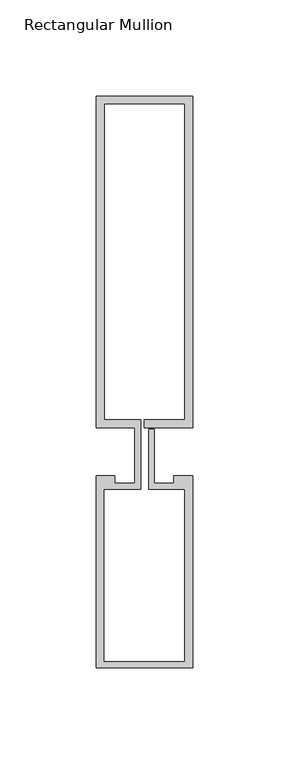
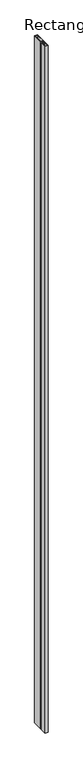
"""IFC4 building model written with IfcOpenShell, lengths in millimetres: member geometry, Rectangular Mullion : Reynaers_CW-50_Mullion-Transom_Horizontal_172.4mm_Facecap-02D."""

from ifc_helpers import new_model, si_unit, frame, origin, place, context, project, spatial, polyline, outline, extrude, source, transform, mapped, element, save


def rectangular_mullion_ff61c363(model_context):
    return source(origin(), model_context, "Body", "SweptSolid", [
        extrude(outline(polyline([(-24.8004059, 184.9), (25.1995941, 184.9), (25.1995941, 12.5), (0.0, 12.5), (0.0, 16.5), (21.1995941, 16.5), (21.1995941, 180.9), (-20.8004059, 180.9), (-20.8004059, 16.5), (-1.9004059, 16.5), (-1.9004059, -19.5), (-20.994845, -19.5), (-20.994845, -109.4191338), (21.1995941, -109.4191338), (21.1995941, -19.5), (2.2995941, -19.5), (2.2995941, 11.5), (5.2995941, 11.5), (5.2995941, -16.5), (15.2996495, -16.5), (15.2996495, -12.5), (25.1995941, -12.5), (25.1995941, -112.5), (-24.994845, -112.5), (-24.994845, -12.5), (-15.2996495, -12.5), (-15.2996495, -16.5), (-4.9004059, -16.5), (-4.9004059, 12.5), (-24.8004059, 12.5), (-24.8004059, 184.9)])), frame((0.0, 0.0, -12000.0), z_axis=(0.0, 0.0, 1.0), x_axis=(1.0, 0.0, 0.0)), (0.0, 0.0, 1.0), 12000.0),
    ])


if __name__ == "__main__":
    model = new_model("IFC4")
    model_context = context("Model", 3, world=origin())
    ifc_project = project(units=[si_unit("LENGTHUNIT", "METRE", prefix="MILLI")], contexts=[model_context])
    site = spatial("IfcSite", under=ifc_project)
    building = spatial("IfcBuilding", under=site)
    placement = place(None, origin())
    rectangular_mullion_shape = rectangular_mullion_ff61c363(model_context)
    element("IfcMember", 1, ObjectType="Rectangular Mullion : Reynaers_CW-50_Mullion-Transom_Horizontal_172.4mm_Facecap-02D", at=placement, inside=building, context=model_context, shape_type="MappedRepresentation", body=[
        mapped(rectangular_mullion_shape, transform((0.0, 0.0, 0.0), x_axis=(1.0, 0.0, 0.0), y_axis=(0.0, 1.0, 0.0), z_axis=(0.0, 0.0, 1.0))),
    ])
    save(model, "model.ifc")
